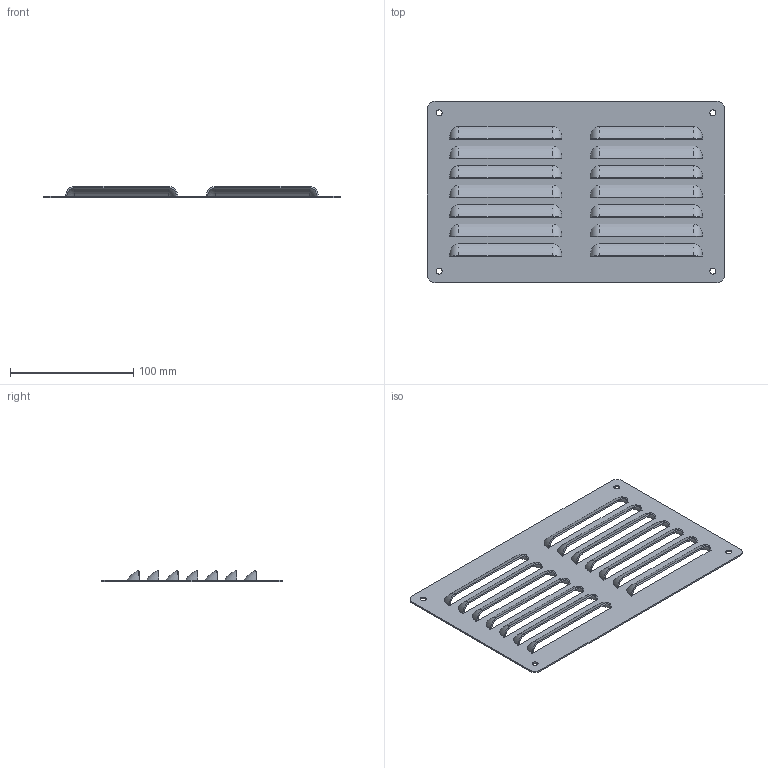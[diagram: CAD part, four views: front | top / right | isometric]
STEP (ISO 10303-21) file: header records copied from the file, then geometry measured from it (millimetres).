
FILE_DESCRIPTION((''),'2;1');
FILE_NAME('SCE-AVK84_ASM','2021-10-19T10:49:42',('mikek'),('SAGINAW CONTROL & ENGINEERING'),'CREO PARAMETRIC BY PTC INC, 2017260','CREO PARAMETRIC BY PTC INC, 2017260','');
FILE_SCHEMA(('AUTOMOTIVE_DESIGN { 1 0 10303 214 1 1 1 1 }'));
Length unit declared in the file: inch
Products named in the file (3): 110729; 102048; SCE-AVK84_ASM
Assembly tree (2 placements, depth 2):
  SCE-AVK84_ASM
    110729
    102048
Bounding box: 241.3 x 147.64 x 9.07 mm (x, y, z)
Volume: 48229.9 mm3; surface area: 83438.4 mm2
Topology: 1 solids, 1 shells, 214 faces, 524 edges, 312 vertices
Faces by surface type: bspline 84, torus 56, cylinder 40, plane 34
Entity records: 11682 total; most frequent: CARTESIAN_POINT 6323, ORIENTED_EDGE 1048, DIRECTION 762, EDGE_CURVE 524, VERTEX_POINT 312, VECTOR 276, LINE 276, EDGE_LOOP 250
